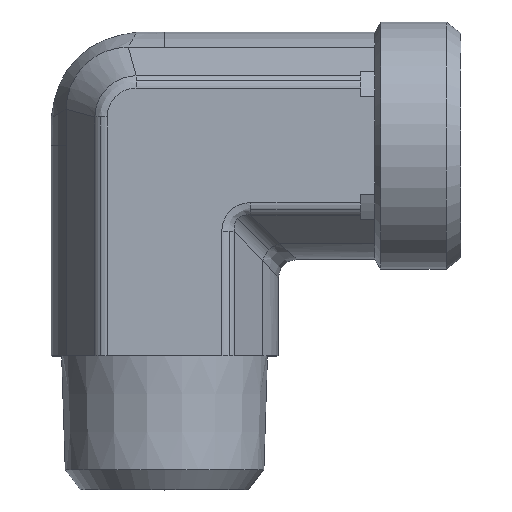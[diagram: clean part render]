
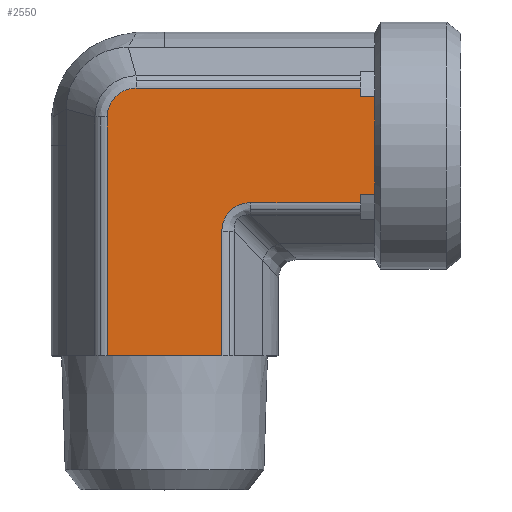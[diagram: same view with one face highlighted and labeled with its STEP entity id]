
A CAD part, top view. The second image highlights one B-rep face of the part: STEP entity #2550.
In plain terms, the highlighted planar face has unit normal (0, 0, 1) as drawn and (0, -1, 0) by its records, which use the part's own axes.
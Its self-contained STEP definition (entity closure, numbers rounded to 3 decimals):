
#361=CARTESIAN_POINT('',(4.521,-11.875,5.99));
#362=VERTEX_POINT('',#361);
#370=CARTESIAN_POINT('',(17.5,-11.875,5.99));
#371=VERTEX_POINT('',#370);
#372=CARTESIAN_POINT('',(4.521,-11.875,5.99));
#373=DIRECTION('',(1.0,0.0,0.0));
#374=VECTOR('',#373,12.979);
#375=LINE('',#372,#374);
#376=EDGE_CURVE('',#362,#371,#375,.T.);
#485=CARTESIAN_POINT('',(-10.49,-11.875,-2.973));
#486=VERTEX_POINT('',#485);
#494=CARTESIAN_POINT('',(-10.49,-11.875,20.5));
#495=VERTEX_POINT('',#494);
#496=CARTESIAN_POINT('',(-10.49,-11.875,-2.973));
#497=DIRECTION('',(0.0,0.0,1.0));
#498=VECTOR('',#497,23.473);
#499=LINE('',#496,#498);
#500=EDGE_CURVE('',#486,#495,#499,.T.);
#1972=CARTESIAN_POINT('',(1.49,-11.875,20.5));
#1973=VERTEX_POINT('',#1972);
#1974=CARTESIAN_POINT('',(0.603,-11.875,20.5));
#1975=VERTEX_POINT('',#1974);
#1976=CARTESIAN_POINT('',(1.49,-11.875,20.5));
#1977=DIRECTION('',(-1.0,0.0,0.0));
#1978=VECTOR('',#1977,0.887);
#1979=LINE('',#1976,#1978);
#1980=EDGE_CURVE('',#1973,#1975,#1979,.T.);
#2031=CARTESIAN_POINT('',(-9.603,-11.875,20.5));
#2032=VERTEX_POINT('',#2031);
#2033=CARTESIAN_POINT('',(-9.603,-11.875,20.5));
#2034=DIRECTION('',(-1.0,0.0,0.0));
#2035=VECTOR('',#2034,0.887);
#2036=LINE('',#2033,#2035);
#2037=EDGE_CURVE('',#2032,#495,#2036,.T.);
#2136=CARTESIAN_POINT('',(0.603,-11.875,22.0));
#2137=VERTEX_POINT('',#2136);
#2138=CARTESIAN_POINT('',(0.603,-11.875,20.5));
#2139=DIRECTION('',(0.0,0.0,1.0));
#2140=VECTOR('',#2139,1.5);
#2141=LINE('',#2138,#2140);
#2142=EDGE_CURVE('',#1975,#2137,#2141,.T.);
#2177=CARTESIAN_POINT('',(-9.603,-11.875,22.0));
#2178=VERTEX_POINT('',#2177);
#2179=CARTESIAN_POINT('',(-9.603,-11.875,22.0));
#2180=DIRECTION('',(0.0,0.0,-1.0));
#2181=VECTOR('',#2180,1.5);
#2182=LINE('',#2179,#2181);
#2183=EDGE_CURVE('',#2178,#2032,#2182,.T.);
#2462=CARTESIAN_POINT('',(-4.5,-11.875,22.0));
#2463=VERTEX_POINT('',#2462);
#2464=CARTESIAN_POINT('',(-4.5,-11.875,22.0));
#2465=DIRECTION('',(-1.0,0.0,0.0));
#2466=VECTOR('',#2465,5.103);
#2467=LINE('',#2464,#2466);
#2468=EDGE_CURVE('',#2463,#2178,#2467,.T.);
#2486=CARTESIAN_POINT('',(-4.5,-11.875,-3.175));
#2487=DIRECTION('',(0.0,-1.0,0.0));
#2488=DIRECTION('',(0.0,0.0,-1.0));
#2489=AXIS2_PLACEMENT_3D('',#2486,#2487,#2488);
#2490=PLANE('',#2489);
#2491=ORIENTED_EDGE('',*,*,#2183,.T.);
#2492=ORIENTED_EDGE('',*,*,#2037,.T.);
#2493=ORIENTED_EDGE('',*,*,#500,.F.);
#2494=CARTESIAN_POINT('',(-7.473,-11.875,-5.99));
#2495=VERTEX_POINT('',#2494);
#2496=CARTESIAN_POINT('',(-10.49,-11.875,-2.973));
#2497=CARTESIAN_POINT('',(-10.49,-11.875,-3.17));
#2498=CARTESIAN_POINT('',(-10.471,-11.875,-3.368));
#2499=CARTESIAN_POINT('',(-10.369,-11.875,-3.873));
#2500=CARTESIAN_POINT('',(-10.259,-11.875,-4.171));
#2501=CARTESIAN_POINT('',(-9.855,-11.875,-4.889));
#2502=CARTESIAN_POINT('',(-9.496,-11.875,-5.266));
#2503=CARTESIAN_POINT('',(-8.588,-11.875,-5.831));
#2504=CARTESIAN_POINT('',(-8.031,-11.875,-5.99));
#2505=CARTESIAN_POINT('',(-7.473,-11.875,-5.99));
#2506=B_SPLINE_CURVE_WITH_KNOTS('',3,(#2496,#2497,#2498,#2499,#2500,#2501,#2502,#2503,#2504,#2505),.UNSPECIFIED.,.F.,.U.,(4,2,2,2,4),(-4.713,-4.124,-3.181,-1.673,0.0),.UNSPECIFIED.);
#2507=EDGE_CURVE('',#2495,#486,#2506,.F.);
#2508=ORIENTED_EDGE('',*,*,#2507,.F.);
#2509=CARTESIAN_POINT('',(17.5,-11.875,-5.99));
#2510=VERTEX_POINT('',#2509);
#2511=CARTESIAN_POINT('',(17.5,-11.875,-5.99));
#2512=DIRECTION('',(-1.0,0.0,0.0));
#2513=VECTOR('',#2512,24.973);
#2514=LINE('',#2511,#2513);
#2515=EDGE_CURVE('',#2510,#2495,#2514,.T.);
#2516=ORIENTED_EDGE('',*,*,#2515,.F.);
#2517=CARTESIAN_POINT('',(17.5,-11.875,-5.99));
#2518=DIRECTION('',(0.0,0.0,1.0));
#2519=VECTOR('',#2518,11.98);
#2520=LINE('',#2517,#2519);
#2521=EDGE_CURVE('',#2510,#371,#2520,.T.);
#2522=ORIENTED_EDGE('',*,*,#2521,.T.);
#2523=ORIENTED_EDGE('',*,*,#376,.F.);
#2524=CARTESIAN_POINT('',(1.49,-11.875,9.021));
#2525=VERTEX_POINT('',#2524);
#2526=CARTESIAN_POINT('',(5.531,-11.875,10.031));
#2527=DIRECTION('',(0.,-1.,0.));
#2528=DIRECTION('',(-0.707,0.,-0.707));
#2529=AXIS2_PLACEMENT_3D('',#2526,#2527,#2528);
#2530=ELLIPSE('',#2529,4.518,3.5);
#2531=EDGE_CURVE('',#2525,#362,#2530,.T.);
#2532=ORIENTED_EDGE('',*,*,#2531,.F.);
#2533=CARTESIAN_POINT('',(1.49,-11.875,20.5));
#2534=DIRECTION('',(0.0,0.0,-1.0));
#2535=VECTOR('',#2534,11.479);
#2536=LINE('',#2533,#2535);
#2537=EDGE_CURVE('',#1973,#2525,#2536,.T.);
#2538=ORIENTED_EDGE('',*,*,#2537,.F.);
#2539=ORIENTED_EDGE('',*,*,#1980,.T.);
#2540=ORIENTED_EDGE('',*,*,#2142,.T.);
#2541=CARTESIAN_POINT('',(0.603,-11.875,22.0));
#2542=DIRECTION('',(-1.0,0.0,0.0));
#2543=VECTOR('',#2542,5.103);
#2544=LINE('',#2541,#2543);
#2545=EDGE_CURVE('',#2137,#2463,#2544,.T.);
#2546=ORIENTED_EDGE('',*,*,#2545,.T.);
#2547=ORIENTED_EDGE('',*,*,#2468,.T.);
#2548=EDGE_LOOP('',(#2491,#2492,#2493,#2508,#2516,#2522,#2523,#2532,#2538,#2539,#2540,#2546,#2547));
#2549=FACE_OUTER_BOUND('',#2548,.T.);
#2550=ADVANCED_FACE('',(#2549),#2490,.T.);
